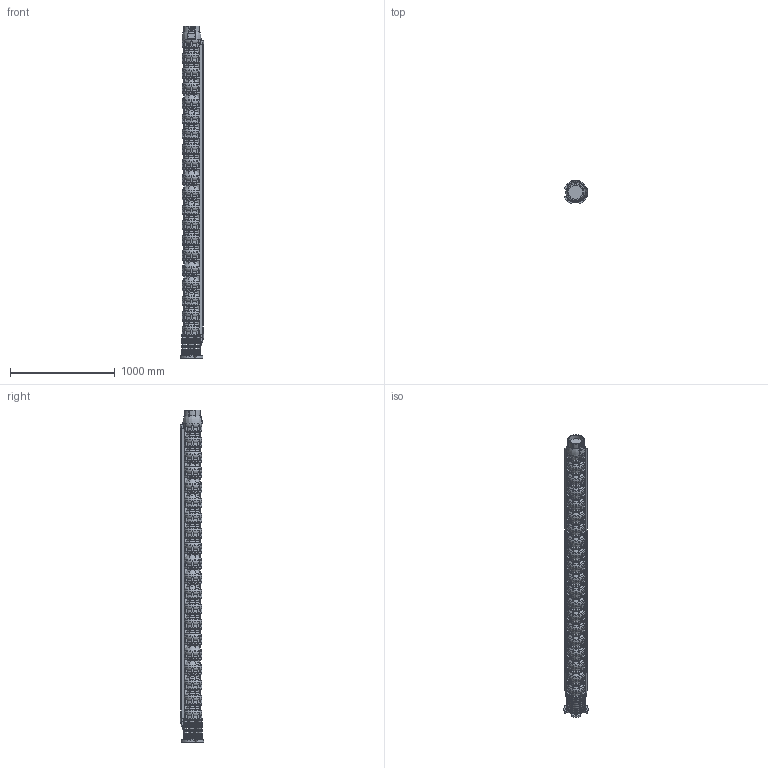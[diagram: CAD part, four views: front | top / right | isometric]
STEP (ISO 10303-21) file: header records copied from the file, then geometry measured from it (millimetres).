
FILE_DESCRIPTION(/* description */ ('Unknown'),/* implementation_level */ '2;1');
FILE_NAME(/* name */ 'VSI134-19_WR_M10-50_SME',/* time_stamp */ '2023-09-14T14:52:07+02:00',/* author */ ('Unknown'),/* organization */ ('Unknown'),/* preprocessor_version */ 'ST-DEVELOPER v18.102',/* originating_system */ 'Solid Edge',/* authorisation */ 'Unknown');
FILE_SCHEMA (('AUTOMOTIVE_DESIGN {1 0 10303 214 3 1 1}'));
Products named in the file (12): VSI134-19_WR_M10-50_SME; VSI134_testata; VSI134_diffusore; VSI134_supporto_8×8; VSI134_adattatore_8×10; VSI134_filtro_A; VSI134_filtro_B; VSI134_terminale_top_copricavo_medio; VSI134_terminale_bottom_copricavo_medio; MID 134-19; M5X8_UNI7687; VSI134_giunto_8×10
Assembly tree (43 placements, depth 2):
  VSI134-19_WR_M10-50_SME
    VSI134_testata
    VSI134_diffusore  x19
    VSI134_supporto_8×8
    VSI134_adattatore_8×10
    VSI134_filtro_A
    VSI134_filtro_B
    VSI134_terminale_top_copricavo_medio  x2
    VSI134_terminale_bottom_copricavo_medio  x2
    MID 134-19  x2
    M5X8_UNI7687  x12
    VSI134_giunto_8×10
Bounding box: 221.78 x 221.78 x 3173 mm (x, y, z)
Volume: 59920883.3 mm3; surface area: 5325557.8 mm2
Topology: 82 solids, 84 shells, 5747 faces, 16165 edges, 10799 vertices
Faces by surface type: plane 4020, torus 873, cylinder 733, cone 76, bspline 31, sphere 14
Full cylindrical faces by diameter (mm): 2.4 x2, 3 x2, 4.2 x16, 5 x12, 5.5 x8, 14 x4, 16 x4, 17.5 x4, 26 x1, 30 x4, 44 x1, 65 x1, 69 x1, 74 x1, 84 x1, 98 x1, 127 x2, 135.472 x1, 157 x1, 182 x20
Entity records: 85427 total; most frequent: CARTESIAN_POINT 18308, ORIENTED_EDGE 13946, DIRECTION 13480, EDGE_CURVE 6973, VERTEX_POINT 4707, AXIS2_PLACEMENT_3D 4618, LINE 4244, VECTOR 4244
